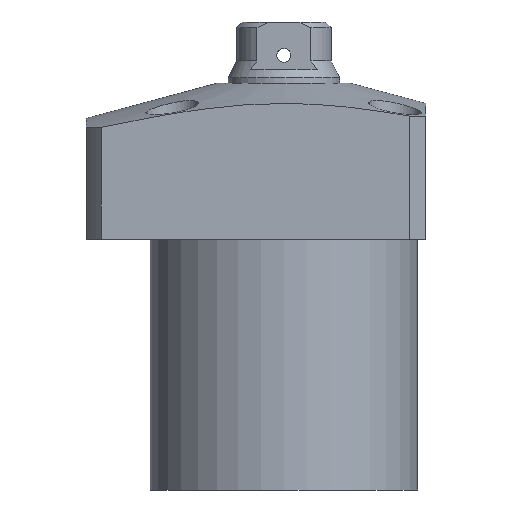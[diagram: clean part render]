
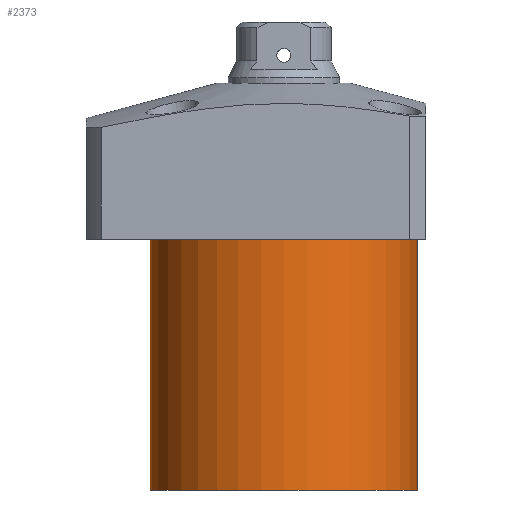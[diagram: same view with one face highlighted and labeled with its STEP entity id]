
A CAD part, front view. The second image highlights one B-rep face of the part: STEP entity #2373.
In plain terms, the highlighted cylindrical face has radius 24 mm (diameter 48 mm), a partial arc.
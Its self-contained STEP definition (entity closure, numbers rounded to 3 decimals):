
#13 = CARTESIAN_POINT ( 'NONE',  ( 24., 0., -59. ) ) ;
#30 = CIRCLE ( 'NONE', #2474, 24. ) ;
#41 = CARTESIAN_POINT ( 'NONE',  ( 24., 0., -59. ) ) ;
#148 = LINE ( 'NONE', #2415, #558 ) ;
#224 = DIRECTION ( 'NONE',  ( 0., 0., 1. ) ) ;
#375 = DIRECTION ( 'NONE',  ( -1., 0., 0. ) ) ;
#419 = DIRECTION ( 'NONE',  ( 0., 0., 1. ) ) ;
#558 = VECTOR ( 'NONE', #928, 1000. ) ;
#588 = CIRCLE ( 'NONE', #1366, 24. ) ;
#596 = EDGE_CURVE ( 'NONE', #2145, #1113, #148, .T. ) ;
#702 = ORIENTED_EDGE ( 'NONE', *, *, #1896, .F. ) ;
#776 = VERTEX_POINT ( 'NONE', #1647 ) ;
#854 = EDGE_CURVE ( 'NONE', #858, #776, #1492, .T. ) ;
#858 = VERTEX_POINT ( 'NONE', #41 ) ;
#928 = DIRECTION ( 'NONE',  ( 0., 0., 1. ) ) ;
#975 = CARTESIAN_POINT ( 'NONE',  ( 0., 0., -59. ) ) ;
#986 = DIRECTION ( 'NONE',  ( 1., 0., 0. ) ) ;
#1087 = ORIENTED_EDGE ( 'NONE', *, *, #854, .T. ) ;
#1113 = VERTEX_POINT ( 'NONE', #2638 ) ;
#1366 = AXIS2_PLACEMENT_3D ( 'NONE', #1810, #1832, #375 ) ;
#1373 = ORIENTED_EDGE ( 'NONE', *, *, #2348, .T. ) ;
#1391 = CARTESIAN_POINT ( 'NONE',  ( 0., 0., -14. ) ) ;
#1464 = CYLINDRICAL_SURFACE ( 'NONE', #1601, 24. ) ;
#1492 = LINE ( 'NONE', #13, #1895 ) ;
#1546 = EDGE_LOOP ( 'NONE', ( #2005, #702, #1087, #1373 ) ) ;
#1601 = AXIS2_PLACEMENT_3D ( 'NONE', #975, #419, #1869 ) ;
#1647 = CARTESIAN_POINT ( 'NONE',  ( 24., 0., -14. ) ) ;
#1657 = DIRECTION ( 'NONE',  ( 0., 0., -1. ) ) ;
#1810 = CARTESIAN_POINT ( 'NONE',  ( 0., 0., -59. ) ) ;
#1832 = DIRECTION ( 'NONE',  ( 0., 0., -1. ) ) ;
#1869 = DIRECTION ( 'NONE',  ( 1., 0., 0. ) ) ;
#1895 = VECTOR ( 'NONE', #224, 1000. ) ;
#1896 = EDGE_CURVE ( 'NONE', #858, #2145, #588, .T. ) ;
#2005 = ORIENTED_EDGE ( 'NONE', *, *, #596, .F. ) ;
#2138 = CARTESIAN_POINT ( 'NONE',  ( -24., 0., -59. ) ) ;
#2145 = VERTEX_POINT ( 'NONE', #2138 ) ;
#2348 = EDGE_CURVE ( 'NONE', #776, #1113, #30, .T. ) ;
#2373 = ADVANCED_FACE ( 'NONE', ( #2397 ), #1464, .T. ) ;
#2397 = FACE_OUTER_BOUND ( 'NONE', #1546, .T. ) ;
#2415 = CARTESIAN_POINT ( 'NONE',  ( -24., 0., -59. ) ) ;
#2474 = AXIS2_PLACEMENT_3D ( 'NONE', #1391, #1657, #986 ) ;
#2638 = CARTESIAN_POINT ( 'NONE',  ( -24., 0., -14. ) ) ;
